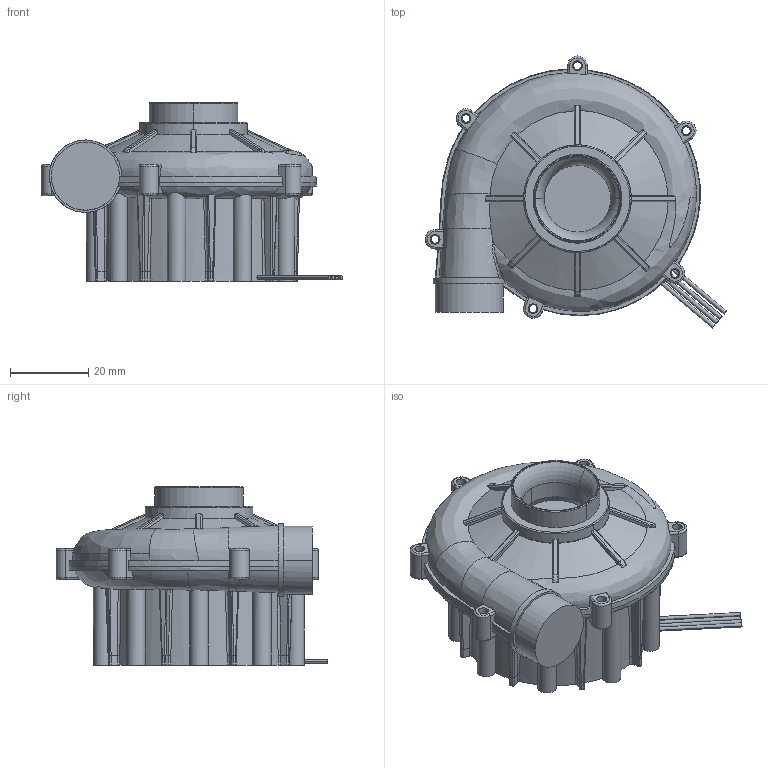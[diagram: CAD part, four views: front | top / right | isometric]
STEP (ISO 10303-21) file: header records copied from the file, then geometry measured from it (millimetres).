
FILE_DESCRIPTION((''),'2;1');
FILE_NAME('705-B-B','2026-08-26T10:49:29',('pc'),(''),'CREO PARAMETRIC BY PTC INC, 2018050','CREO PARAMETRIC BY PTC INC, 2018050','');
FILE_SCHEMA(('CONFIG_CONTROL_DESIGN','GEOMETRIC_VALIDATION_PROPERTIES_MIM'));
Length unit declared in the file: millimetre
Products named in the file (1): 705-B-B
Bounding box: 77.01 x 69.49 x 45.56 mm (x, y, z)
Volume: 87810.5 mm3; surface area: 17930.4 mm2
Topology: 1 solids, 1 shells, 472 faces, 1430 edges, 979 vertices
Faces by surface type: cylinder 194, plane 116, bspline 88, cone 27, extrusion 25, torus 20, revolution 2
Entity records: 27376 total; most frequent: CARTESIAN_POINT 11425, ORIENTED_EDGE 2860, DIRECTION 1728, PRESENTATION_STYLE_ASSIGNMENT 1431, STYLED_ITEM 1431, CURVE_STYLE 1430, EDGE_CURVE 1430, VERTEX_POINT 979
